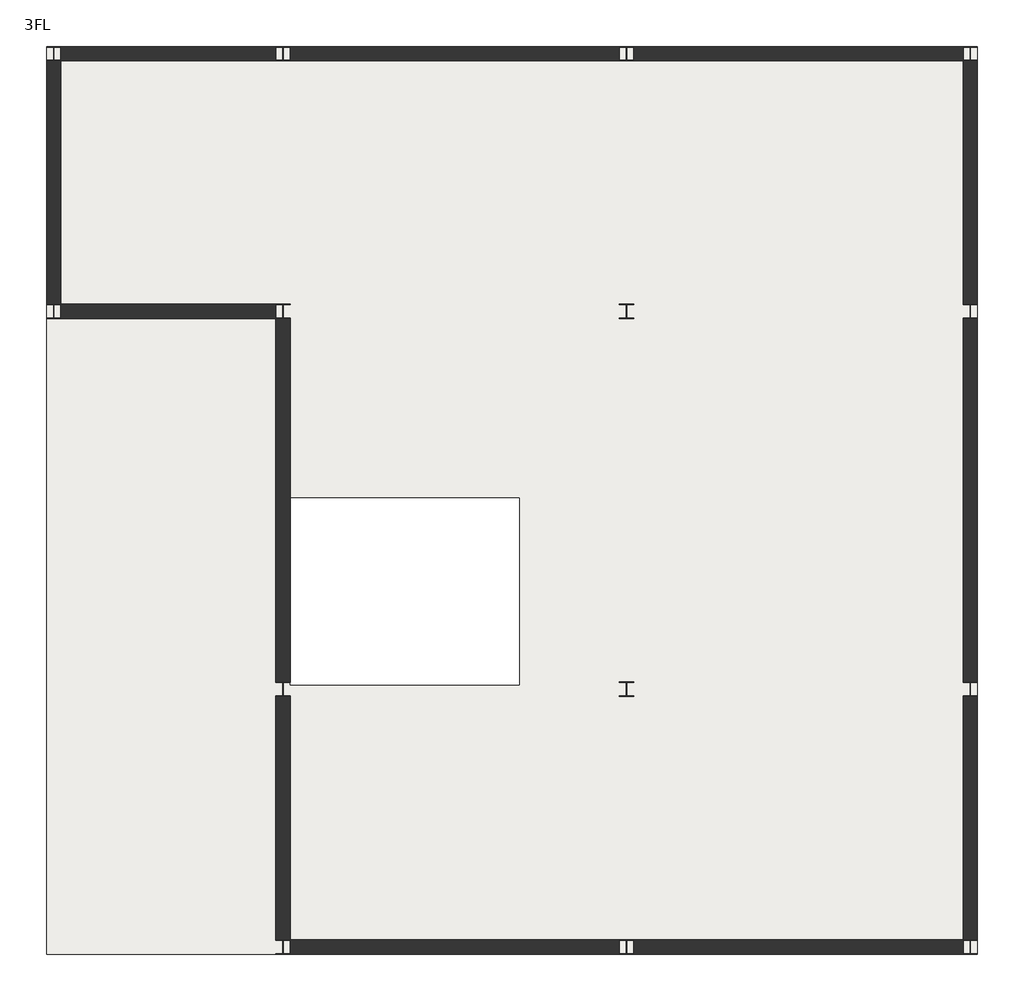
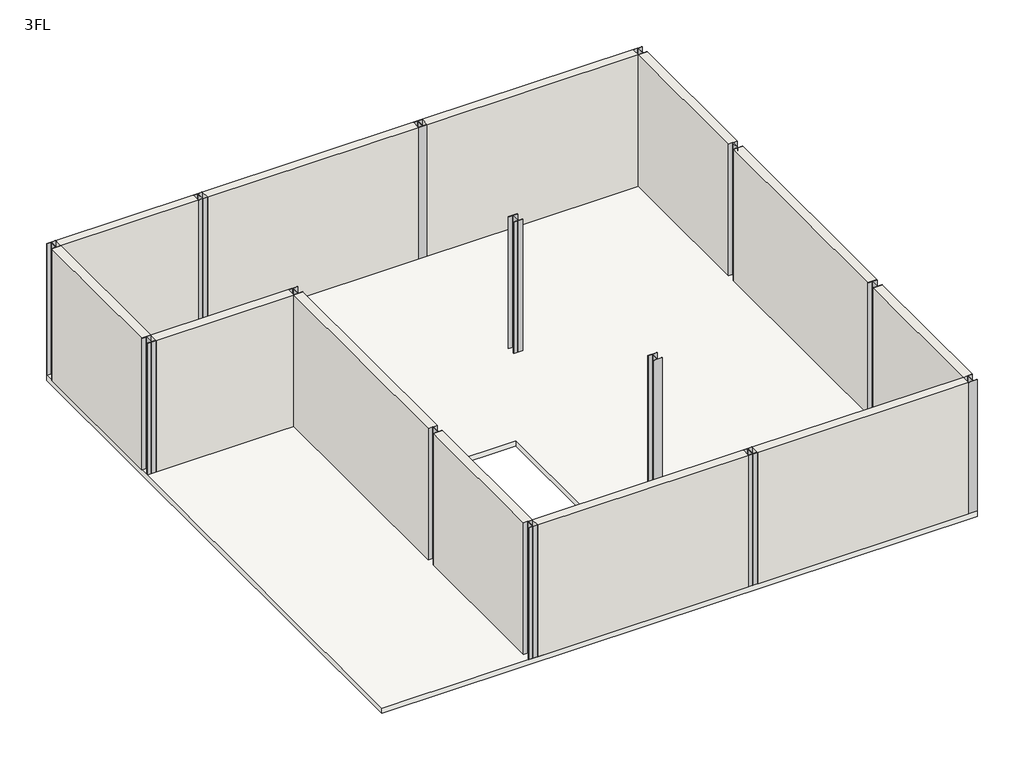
# One storey: 14 columns, 12 walls, 1 slab.
"""IFC4 building model written with IfcOpenShell, lengths in millimetres."""

from ifc_helpers import new_model, si_unit, frame, origin, place, context, project, spatial, polyline, outline, extrude, transform, mapped, element, save
from components import h250x250_fc2eb51f

model = new_model("IFC4")

# Units and contexts
model_context = context("Model", 3, world=origin())
ifc_project = project(units=[si_unit("LENGTHUNIT", "METRE", prefix="MILLI")], contexts=[model_context])

# Site, building, storey
site = spatial("IfcSite", under=ifc_project)
building = spatial("IfcBuilding", under=site)
storey = spatial("IfcBuildingStorey", under=building, Name="3FL", Elevation=6700.0)

# Columns
placement = place(None, origin())
h250x250_shape = h250x250_fc2eb51f(model_context)
element("IfcColumn", 1, ObjectType="H型鋼柱 : H250x250", at=placement, inside=storey, context=model_context, shape_type="MappedRepresentation", body=[
    mapped(h250x250_shape, transform((-76506.569844, 11233.032646, 0.0), x_axis=(-1.0, 0.0, 0.0), y_axis=(0.0, -1.0, 0.0), z_axis=(0.0, 0.0, 1.0))),
])
element("IfcColumn", 2, ObjectType="H型鋼柱 : H250x250", at=placement, inside=storey, context=model_context, shape_type="MappedRepresentation", body=[
    mapped(h250x250_shape, transform((-72506.569844, 11233.032646, 0.0), x_axis=(-1.0, 0.0, 0.0), y_axis=(0.0, -1.0, 0.0), z_axis=(0.0, 0.0, 1.0))),
])
element("IfcColumn", 3, ObjectType="H型鋼柱 : H250x250", at=placement, inside=storey, context=model_context, shape_type="MappedRepresentation", body=[
    mapped(h250x250_shape, transform((-66506.569844, 11233.032646, 0.0), x_axis=(-1.0, 0.0, 0.0), y_axis=(0.0, -1.0, 0.0), z_axis=(0.0, 0.0, 1.0))),
])
element("IfcColumn", 4, ObjectType="H型鋼柱 : H250x250", at=placement, inside=storey, context=model_context, shape_type="MappedRepresentation", body=[
    mapped(h250x250_shape, transform((-60506.569844, 11233.032646, 0.0), x_axis=(-1.0, 0.0, 0.0), y_axis=(0.0, -1.0, 0.0), z_axis=(0.0, 0.0, 1.0))),
])
element("IfcColumn", 5, ObjectType="H型鋼柱 : H250x250", at=placement, inside=storey, context=model_context, shape_type="MappedRepresentation", body=[
    mapped(h250x250_shape, transform((-76506.569844, 6733.032646, 0.0), x_axis=(-1.0, 0.0, 0.0), y_axis=(0.0, -1.0, 0.0), z_axis=(0.0, 0.0, 1.0))),
])
element("IfcColumn", 6, ObjectType="H型鋼柱 : H250x250", at=placement, inside=storey, context=model_context, shape_type="MappedRepresentation", body=[
    mapped(h250x250_shape, transform((-72506.569844, 6733.032646, 0.0), x_axis=(-1.0, 0.0, 0.0), y_axis=(0.0, -1.0, 0.0), z_axis=(0.0, 0.0, 1.0))),
])
element("IfcColumn", 7, ObjectType="H型鋼柱 : H250x250", at=placement, inside=storey, context=model_context, shape_type="MappedRepresentation", body=[
    mapped(h250x250_shape, transform((-66506.569844, 6733.032646, 0.0), x_axis=(-1.0, 0.0, 0.0), y_axis=(0.0, -1.0, 0.0), z_axis=(0.0, 0.0, 1.0))),
])
element("IfcColumn", 8, ObjectType="H型鋼柱 : H250x250", at=placement, inside=storey, context=model_context, shape_type="MappedRepresentation", body=[
    mapped(h250x250_shape, transform((-60506.569844, 6733.032646, 0.0), x_axis=(-1.0, 0.0, 0.0), y_axis=(0.0, -1.0, 0.0), z_axis=(0.0, 0.0, 1.0))),
])
element("IfcColumn", 9, ObjectType="H型鋼柱 : H250x250", at=placement, inside=storey, context=model_context, shape_type="MappedRepresentation", body=[
    mapped(h250x250_shape, transform((-72506.569844, 133.032646, 0.0), x_axis=(-1.0, 0.0, 0.0), y_axis=(0.0, -1.0, 0.0), z_axis=(0.0, 0.0, 1.0))),
])
element("IfcColumn", 10, ObjectType="H型鋼柱 : H250x250", at=placement, inside=storey, context=model_context, shape_type="MappedRepresentation", body=[
    mapped(h250x250_shape, transform((-66506.569844, 133.032646, 0.0), x_axis=(-1.0, 0.0, 0.0), y_axis=(0.0, -1.0, 0.0), z_axis=(0.0, 0.0, 1.0))),
])
element("IfcColumn", 11, ObjectType="H型鋼柱 : H250x250", at=placement, inside=storey, context=model_context, shape_type="MappedRepresentation", body=[
    mapped(h250x250_shape, transform((-60506.569844, 133.032646, 0.0), x_axis=(-1.0, 0.0, 0.0), y_axis=(0.0, -1.0, 0.0), z_axis=(0.0, 0.0, 1.0))),
])
element("IfcColumn", 12, ObjectType="H型鋼柱 : H250x250", at=placement, inside=storey, context=model_context, shape_type="MappedRepresentation", body=[
    mapped(h250x250_shape, transform((-72506.569844, -4366.967354, 0.0), x_axis=(-1.0, 0.0, 0.0), y_axis=(0.0, -1.0, 0.0), z_axis=(0.0, 0.0, 1.0))),
])
element("IfcColumn", 13, ObjectType="H型鋼柱 : H250x250", at=placement, inside=storey, context=model_context, shape_type="MappedRepresentation", body=[
    mapped(h250x250_shape, transform((-66506.569844, -4366.967354, 0.0), x_axis=(-1.0, 0.0, 0.0), y_axis=(0.0, -1.0, 0.0), z_axis=(0.0, 0.0, 1.0))),
])
element("IfcColumn", 14, ObjectType="H型鋼柱 : H250x250", at=placement, inside=storey, context=model_context, shape_type="MappedRepresentation", body=[
    mapped(h250x250_shape, transform((-60506.569844, -4366.967354, 0.0), x_axis=(-1.0, 0.0, 0.0), y_axis=(0.0, -1.0, 0.0), z_axis=(0.0, 0.0, 1.0))),
])

# Slab
element("IfcSlab", 15, ObjectType="一般 - 15cm", at=placement, inside=storey, context=model_context, shape_type="SweptSolid", body=[
    extrude(outline(polyline([(-60381.569844, 11358.032646), (-60381.569844, -4491.967354), (-76631.569844, -4491.967354), (-76631.569844, 11358.032646), (-60381.569844, 11358.032646)]), holes=[polyline([(-68380.569844, 3474.0864879), (-72381.569844, 3474.0864879), (-72381.569844, 208.032646), (-68380.569844, 208.032646), (-68380.569844, 3474.0864879)])]), frame((0.0, 0.0, 6550.0), z_axis=(0.0, 0.0, 1.0), x_axis=(1.0, 0.0, 0.0)), (0.0, 0.0, 1.0), 150.0),
])

# Walls
element("IfcWall", 16, ObjectType="3FL內牆 25cm", at=placement, inside=storey, context=model_context, shape_type="SweptSolid", body=[
    extrude(outline(polyline([(-72631.569844, 11108.032646), (-76381.569844, 11108.032646), (-76381.569844, 11358.032646), (-72631.569844, 11358.032646), (-72631.569844, 11108.032646)])), frame((0.0, 0.0, 6700.0), z_axis=(0.0, 0.0, 1.0), x_axis=(1.0, 0.0, 0.0)), (0.0, 0.0, 1.0), 3800.0),
])
element("IfcWall", 17, ObjectType="3FL內牆 25cm", at=placement, inside=storey, context=model_context, shape_type="SweptSolid", body=[
    extrude(outline(polyline([(-66631.569844, 11108.032646), (-72381.569844, 11108.032646), (-72381.569844, 11358.032646), (-66631.569844, 11358.032646), (-66631.569844, 11108.032646)])), frame((0.0, 0.0, 6700.0), z_axis=(0.0, 0.0, 1.0), x_axis=(1.0, 0.0, 0.0)), (0.0, 0.0, 1.0), 3800.0),
])
element("IfcWall", 18, ObjectType="3FL內牆 25cm", at=placement, inside=storey, context=model_context, shape_type="SweptSolid", body=[
    extrude(outline(polyline([(-60631.569844, 11108.032646), (-66381.569844, 11108.032646), (-66381.569844, 11358.032646), (-60631.569844, 11358.032646), (-60631.569844, 11108.032646)])), frame((0.0, 0.0, 6700.0), z_axis=(0.0, 0.0, 1.0), x_axis=(1.0, 0.0, 0.0)), (0.0, 0.0, 1.0), 3800.0),
])
element("IfcWall", 19, ObjectType="3FL內牆 25cm", at=placement, inside=storey, context=model_context, shape_type="SweptSolid", body=[
    extrude(outline(polyline([(-76631.569844, 6858.032646), (-76631.569844, 11108.032646), (-76381.569844, 11108.032646), (-76381.569844, 6858.032646), (-76631.569844, 6858.032646)])), frame((0.0, 0.0, 6700.0), z_axis=(0.0, 0.0, 1.0), x_axis=(1.0, 0.0, 0.0)), (0.0, 0.0, 1.0), 3800.0),
])
element("IfcWall", 20, ObjectType="3FL內牆 25cm", at=placement, inside=storey, context=model_context, shape_type="SweptSolid", body=[
    extrude(outline(polyline([(-72631.569844, 6608.032646), (-76381.569844, 6608.032646), (-76381.569844, 6858.032646), (-72631.569844, 6858.032646), (-72631.569844, 6608.032646)])), frame((0.0, 0.0, 6700.0), z_axis=(0.0, 0.0, 1.0), x_axis=(1.0, 0.0, 0.0)), (0.0, 0.0, 1.0), 3800.0),
])
element("IfcWall", 21, ObjectType="3FL內牆 25cm", at=placement, inside=storey, context=model_context, shape_type="SweptSolid", body=[
    extrude(outline(polyline([(-72631.569844, 258.032646), (-72631.569844, 6608.032646), (-72381.569844, 6608.032646), (-72381.569844, 258.032646), (-72631.569844, 258.032646)])), frame((0.0, 0.0, 6700.0), z_axis=(0.0, 0.0, 1.0), x_axis=(1.0, 0.0, 0.0)), (0.0, 0.0, 1.0), 3800.0),
])
element("IfcWall", 22, ObjectType="3FL內牆 25cm", at=placement, inside=storey, context=model_context, shape_type="SweptSolid", body=[
    extrude(outline(polyline([(-72631.569844, -4241.967354), (-72631.569844, 8.032646), (-72381.569844, 8.032646), (-72381.569844, -4241.967354), (-72631.569844, -4241.967354)])), frame((0.0, 0.0, 6700.0), z_axis=(0.0, 0.0, 1.0), x_axis=(1.0, 0.0, 0.0)), (0.0, 0.0, 1.0), 3800.0),
])
element("IfcWall", 23, ObjectType="3FL內牆 25cm", at=placement, inside=storey, context=model_context, shape_type="SweptSolid", body=[
    extrude(outline(polyline([(-66631.569844, -4491.967354), (-72381.569844, -4491.967354), (-72381.569844, -4241.967354), (-66631.569844, -4241.967354), (-66631.569844, -4491.967354)])), frame((0.0, 0.0, 6700.0), z_axis=(0.0, 0.0, 1.0), x_axis=(1.0, 0.0, 0.0)), (0.0, 0.0, 1.0), 3800.0),
])
element("IfcWall", 24, ObjectType="3FL內牆 25cm", at=placement, inside=storey, context=model_context, shape_type="SweptSolid", body=[
    extrude(outline(polyline([(-60631.569844, -4491.967354), (-66381.569844, -4491.967354), (-66381.569844, -4241.967354), (-60631.569844, -4241.967354), (-60631.569844, -4491.967354)])), frame((0.0, 0.0, 6700.0), z_axis=(0.0, 0.0, 1.0), x_axis=(1.0, 0.0, 0.0)), (0.0, 0.0, 1.0), 3800.0),
])
element("IfcWall", 25, ObjectType="3FL內牆 25cm", at=placement, inside=storey, context=model_context, shape_type="SweptSolid", body=[
    extrude(outline(polyline([(-60381.569844, 8.032646), (-60381.569844, -4241.967354), (-60631.569844, -4241.967354), (-60631.569844, 8.032646), (-60381.569844, 8.032646)])), frame((0.0, 0.0, 6700.0), z_axis=(0.0, 0.0, 1.0), x_axis=(1.0, 0.0, 0.0)), (0.0, 0.0, 1.0), 3800.0),
])
element("IfcWall", 26, ObjectType="3FL內牆 25cm", at=placement, inside=storey, context=model_context, shape_type="SweptSolid", body=[
    extrude(outline(polyline([(-60381.569844, 6608.032646), (-60381.569844, 258.032646), (-60631.569844, 258.032646), (-60631.569844, 6608.032646), (-60381.569844, 6608.032646)])), frame((0.0, 0.0, 6700.0), z_axis=(0.0, 0.0, 1.0), x_axis=(1.0, 0.0, 0.0)), (0.0, 0.0, 1.0), 3800.0),
])
element("IfcWall", 27, ObjectType="3FL內牆 25cm", at=placement, inside=storey, context=model_context, shape_type="SweptSolid", body=[
    extrude(outline(polyline([(-60381.569844, 11108.032646), (-60381.569844, 6858.032646), (-60631.569844, 6858.032646), (-60631.569844, 11108.032646), (-60381.569844, 11108.032646)])), frame((0.0, 0.0, 6700.0), z_axis=(0.0, 0.0, 1.0), x_axis=(1.0, 0.0, 0.0)), (0.0, 0.0, 1.0), 3800.0),
])

save(model, "model.ifc")
